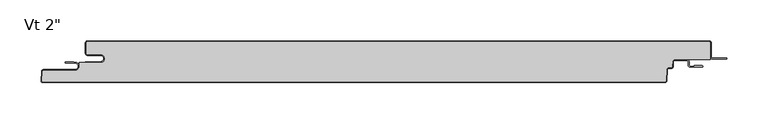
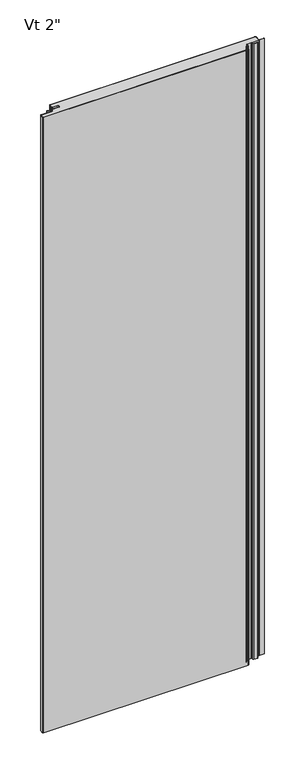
"""IFC4 building model written with IfcOpenShell, lengths in millimetres: plate geometry."""

import ifcopenshell
import ifcopenshell.guid

model = None  # the IFC model being written
_history = None  # IfcOwnerHistory: only IFC2X3 demands one
_inside = {}  # id of a spatial element -> (the spatial element, [elements in it])
_under = {}  # id of a project, library or spatial element -> (it, [spatial elements below it])
_declared = {}  # id of a project -> (the project, [libraries it declares])
_typed = {}  # id of a type object -> (the type object, [elements of that type])
_made_of = {}  # id of a material, layer set ... -> (it, [elements and type objects made of it])


def new_model(schema):
    """Start an empty IFC model of exactly this schema.

    Asked for "IFC4X3", IfcOpenShell would pick the latest addendum, in which some entities
    have other attributes; the version numbers below select the first issue.
    IFC2X3 requires an IfcOwnerHistory on every rooted entity: one is made here for all.
    """
    global model, _history
    if schema == "IFC4X3":
        model = ifcopenshell.file(schema_version=(4, 3, 0, 0))
    else:
        model = ifcopenshell.file(schema=schema)
    _inside.clear()
    _under.clear()
    _declared.clear()
    _typed.clear()
    _made_of.clear()
    _history = None
    if model.schema == "IFC2X3":
        org = make("IfcOrganization", Name="unknown")
        user = make(
            "IfcPersonAndOrganization",
            ThePerson=make("IfcPerson", FamilyName="unknown"),
            TheOrganization=org,
        )
        app = make(
            "IfcApplication",
            ApplicationDeveloper=org,
            Version="unknown",
            ApplicationFullName="unknown",
            ApplicationIdentifier="unknown",
        )
        _history = make(
            "IfcOwnerHistory",
            OwningUser=user,
            OwningApplication=app,
            ChangeAction="ADDED",
            CreationDate=0,
        )
    return model


def make(cls, **values):
    """One entity of the class cls with the attributes given. An attribute that is None is left unset."""
    return model.create_entity(
        cls, **{name: value for name, value in values.items() if value is not None}
    )


def rooted(cls, **values):
    """An entity with a GlobalId (a new one), such as an element, a storey or a relation."""
    return make(cls, GlobalId=ifcopenshell.guid.new(), OwnerHistory=_history, **values)


def si_unit(unit_type, name, prefix=None):
    """IfcSIUnit, for example si_unit("LENGTHUNIT", "METRE", prefix="MILLI")."""
    return make("IfcSIUnit", UnitType=unit_type, Prefix=prefix, Name=name)


def assignment(units):
    """IfcUnitAssignment: the units of a project."""
    return None if units is None else make("IfcUnitAssignment", Units=units)


def point(xyz):
    """IfcCartesianPoint."""
    return None if xyz is None else make("IfcCartesianPoint", Coordinates=xyz)


def direction(xyz):
    """IfcDirection."""
    return None if xyz is None else make("IfcDirection", DirectionRatios=xyz)


def frame(location, z_axis=None, x_axis=None):
    """IfcAxis2Placement3D, a coordinate frame: its origin and axes. An axis left out is left unset."""
    return make(
        "IfcAxis2Placement3D",
        Location=point(location),
        Axis=direction(z_axis),
        RefDirection=direction(x_axis),
    )


def frame_2d(location, x_axis=None):
    """IfcAxis2Placement2D, a coordinate frame in the plane: its origin and x axis."""
    return make(
        "IfcAxis2Placement2D", Location=point(location), RefDirection=direction(x_axis)
    )


def origin():
    """The frame at (0, 0, 0) with its axes left unset."""
    return frame((0.0, 0.0, 0.0))


def origin_with_axes():
    """The frame at (0, 0, 0) with the z axis (0, 0, 1) and the x axis (1, 0, 0) written out."""
    return frame((0.0, 0.0, 0.0), z_axis=(0.0, 0.0, 1.0), x_axis=(1.0, 0.0, 0.0))


def place(relative_to, where):
    """IfcLocalPlacement: puts the frame where relative to a parent placement (None: the world)."""
    return make(
        "IfcLocalPlacement", PlacementRelTo=relative_to, RelativePlacement=where
    )


def context(
    kind, dimensions, precision=None, world=None, true_north=None, identifier=None
):
    """IfcGeometricRepresentationContext, for example the 3D "Model" context."""
    return make(
        "IfcGeometricRepresentationContext",
        ContextIdentifier=identifier,
        ContextType=kind,
        CoordinateSpaceDimension=dimensions,
        Precision=precision,
        WorldCoordinateSystem=world,
        TrueNorth=true_north,
    )


def project(units=None, contexts=None):
    """IfcProject with its units and contexts."""
    return rooted(
        "IfcProject",
        Name="project",
        RepresentationContexts=contexts,
        UnitsInContext=assignment(units),
    )


def spatial(cls, under=None, at=None, **own):
    """A site, building, storey or space (cls), placed at a placement, below another one or the project."""
    s = rooted(cls, ObjectPlacement=at, **own)
    if under is not None:
        _under.setdefault(under.id(), (under, []))[1].append(s)
    return s


def polyline(points):
    """IfcPolyline through the points."""
    return make("IfcPolyline", Points=[point(p) for p in points])


def circle_curve(where, radius):
    """IfcCircle in the frame where."""
    return make("IfcCircle", Position=where, Radius=radius)


def ellipse_curve(where, semi_axis1, semi_axis2):
    """IfcEllipse in the frame where."""
    return make(
        "IfcEllipse", Position=where, SemiAxis1=semi_axis1, SemiAxis2=semi_axis2
    )


def trimmed(basis, trim1, trim2, sense, master):
    """IfcTrimmedCurve: the piece of a basis curve between two trims."""
    return make(
        "IfcTrimmedCurve",
        BasisCurve=basis,
        Trim1=trim1,
        Trim2=trim2,
        SenseAgreement=sense,
        MasterRepresentation=master,
    )


def segment(curve, same_sense, transition):
    """IfcCompositeCurveSegment."""
    return make(
        "IfcCompositeCurveSegment",
        Transition=transition,
        SameSense=same_sense,
        ParentCurve=curve,
    )


def composite_curve(segments, self_intersect=None):
    """IfcCompositeCurve: segments joined end to end."""
    return make("IfcCompositeCurve", Segments=segments, SelfIntersect=self_intersect)


def outline(outer, holes=None, kind="AREA"):
    """IfcArbitraryClosedProfileDef: a profile drawn as a closed curve; with holes, ...WithVoids."""
    if holes is None:
        return make("IfcArbitraryClosedProfileDef", ProfileType=kind, OuterCurve=outer)
    return make(
        "IfcArbitraryProfileDefWithVoids",
        ProfileType=kind,
        OuterCurve=outer,
        InnerCurves=holes,
    )


def extrude(swept, where, along, depth):
    """IfcExtrudedAreaSolid: the profile swept, set in the frame where, extruded along a direction by depth."""
    return make(
        "IfcExtrudedAreaSolid",
        SweptArea=swept,
        Position=where,
        ExtrudedDirection=direction(along),
        Depth=depth,
    )


def shape(context_of_items, identifier, shape_type, items):
    """IfcShapeRepresentation: the items that make up one representation, for example the "Body"."""
    return make(
        "IfcShapeRepresentation",
        ContextOfItems=context_of_items,
        RepresentationIdentifier=identifier,
        RepresentationType=shape_type,
        Items=items,
    )


def source(mapping_origin, context_of_items, identifier, shape_type, items):
    """IfcRepresentationMap: a shape defined once, which mapped items show again and again."""
    return make(
        "IfcRepresentationMap",
        MappingOrigin=mapping_origin,
        MappedRepresentation=shape(context_of_items, identifier, shape_type, items),
    )


def transform(
    local_origin,
    x_axis=None,
    y_axis=None,
    z_axis=None,
    scale=None,
    scale2=None,
    scale3=None,
    uniform=True,
):
    """IfcCartesianTransformationOperator3D, or its non-uniform kind. x_axis, y_axis, z_axis: its Axis1, 2, 3."""
    if uniform:
        return make(
            "IfcCartesianTransformationOperator3D",
            Axis1=direction(x_axis),
            Axis2=direction(y_axis),
            LocalOrigin=point(local_origin),
            Scale=scale,
            Axis3=direction(z_axis),
        )
    return make(
        "IfcCartesianTransformationOperator3DnonUniform",
        Axis1=direction(x_axis),
        Axis2=direction(y_axis),
        LocalOrigin=point(local_origin),
        Scale=scale,
        Axis3=direction(z_axis),
        Scale2=scale2,
        Scale3=scale3,
    )


def mapped(mapping_source, mapping_target):
    """IfcMappedItem: shows the shape of a source again, moved by a transform."""
    return make(
        "IfcMappedItem", MappingSource=mapping_source, MappingTarget=mapping_target
    )


def made_of(thing, what):
    """Note that an element or type object is made of a material, layer set ...; save() writes the relation."""
    if what is not None:
        _made_of.setdefault(what.id(), (what, []))[1].append(thing)
    return thing


def element(
    cls,
    number,
    at=None,
    inside=None,
    cuts=None,
    type_object=None,
    material=None,
    context=None,
    identifier="Body",
    shape_type=None,
    held_by="IfcProductDefinitionShape",
    body=None,
    shapes=None,
    **own,
):
    """One element of the class cls, such as IfcWall. Its Tag is "e" and its number.

    at: its placement. inside: the storey or other place that contains it. cuts: it is an
    opening in that element (IfcRelVoidsElement). A single representation is given by context,
    identifier, shape_type and body (its items); several are given by shapes. held_by: the class
    of the entity that holds the representations. save() writes the other relations.
    """
    e = rooted(cls, Tag="e%d" % number, ObjectPlacement=at, **own)
    if body is not None:
        shapes = [shape(context, identifier, shape_type, body)]
    if shapes is not None:
        e.Representation = make(held_by, Representations=shapes)
    if inside is not None:
        _inside.setdefault(inside.id(), (inside, []))[1].append(e)
    if cuts is not None:
        rooted(
            "IfcRelVoidsElement", RelatingBuildingElement=cuts, RelatedOpeningElement=e
        )
    if type_object is not None:
        _typed.setdefault(type_object.id(), (type_object, []))[1].append(e)
    return made_of(e, material)


def aggregate(whole, parts):
    """IfcRelAggregates: a whole, such as a stair, and the parts it consists of."""
    return rooted("IfcRelAggregates", RelatingObject=whole, RelatedObjects=parts)


def save(model, path):
    """Write the relations noted so far, then the file.

    IfcRelAggregates (storeys below a building ...), IfcRelContainedInSpatialStructure (elements
    in a storey), IfcRelDefinesByType, IfcRelAssociatesMaterial and IfcRelDeclares: one each for
    every whole, place, type object, material and project.
    """
    for whole, parts in _under.values():
        aggregate(whole, parts)
    for where, things in _inside.values():
        rooted(
            "IfcRelContainedInSpatialStructure",
            RelatedElements=things,
            RelatingStructure=where,
        )
    for kind, things in _typed.values():
        rooted("IfcRelDefinesByType", RelatedObjects=things, RelatingType=kind)
    for what, things in _made_of.values():
        rooted("IfcRelAssociatesMaterial", RelatedObjects=things, RelatingMaterial=what)
    for by, libraries in _declared.values():
        rooted("IfcRelDeclares", RelatingContext=by, RelatedDefinitions=libraries)
    model.write(path)


def plane_surface(at):
    """IfcPlane: the flat surface through the origin of the frame at, square to its z axis."""
    return make("IfcPlane", Position=at)


def cylinder_surface(at, radius):
    """IfcCylindricalSurface: all points at the distance radius from the z axis of the frame at."""
    return make("IfcCylindricalSurface", Position=at, Radius=radius)


def revolved_surface(curve, axis_point, axis_direction):
    """IfcSurfaceOfRevolution: the curve turned about the line through axis_point along axis_direction."""
    return make(
        "IfcSurfaceOfRevolution",
        SweptCurve=make("IfcArbitraryOpenProfileDef", ProfileType="CURVE", Curve=curve),
        AxisPosition=make("IfcAxis1Placement", Location=point(axis_point), Axis=direction(axis_direction)),
    )


def extruded_surface(curve, direction_of_extrusion, depth):
    """IfcSurfaceOfLinearExtrusion: the curve pushed along a direction by depth."""
    return make(
        "IfcSurfaceOfLinearExtrusion",
        SweptCurve=make("IfcArbitraryOpenProfileDef", ProfileType="CURVE", Curve=curve),
        ExtrudedDirection=direction(direction_of_extrusion),
        Depth=depth,
    )


def advanced_brep(points, edges, surfaces, faces):
    """IfcAdvancedBrep: a solid bounded by faces that lie on surfaces and meet in shared edges.

    An edge is (start, end): straight between two places in points (the first is 0);
    or (start, end, curve); or (start, end, curve, False) where it runs against its curve.
    A face is (place in surfaces, loops), or (place, loops, False) where it looks against
    its surface's normal. A loop lists edges by number (the first is 1), with a minus sign
    where the edge is run from its end to its start. The first loop is the outer one.
    """
    corners = [point(p) for p in points]
    vertices = [make("IfcVertexPoint", VertexGeometry=c) for c in corners]
    made = []
    for start, end, *more in edges:
        made.append(
            make(
                "IfcEdgeCurve",
                EdgeStart=vertices[start],
                EdgeEnd=vertices[end],
                EdgeGeometry=more[0] if more else make("IfcPolyline", Points=[corners[start], corners[end]]),
                SameSense=more[1] if len(more) > 1 else True,
            )
        )
    hull = []
    for where, loops, *sense in faces:
        bounds = []
        for j, loop in enumerate(loops):
            ring = [make("IfcOrientedEdge", EdgeElement=made[abs(k) - 1], Orientation=k > 0) for k in loop]
            bounds.append(
                make(
                    "IfcFaceOuterBound" if j == 0 else "IfcFaceBound",
                    Bound=make("IfcEdgeLoop", EdgeList=ring),
                    Orientation=True,
                )
            )
        hull.append(make("IfcAdvancedFace", Bounds=bounds, FaceSurface=surfaces[where], SameSense=sense[0] if sense else True))
    return make("IfcAdvancedBrep", Outer=make("IfcClosedShell", CfsFaces=hull))


def plate_13ea33e8(model_context):
    return source(origin(), model_context, "Body", "SolidModel", [
        extrude(outline(composite_curve([segment(trimmed(circle_curve(frame_2d((335.8683456, -25.4)), 2.5875), [point((335.8683456, -22.8125))], [point((333.2843916, -25.2645807))], True, "CARTESIAN"), True, "CONTINUOUS"), segment(polyline([(333.2843916, -25.2645807), (332.9823154, -31.028539)]), True, "CONTINUOUS"), segment(trimmed(circle_curve(frame_2d((331.6029583, -30.95625)), 1.38125), [point((332.9823154, -31.028539))], [point((331.6029583, -32.3375))], False, "CARTESIAN"), True, "CONTINUOUS"), segment(polyline([(331.6029583, -32.3375), (328.5591519, -32.3375)]), True, "CONTINUOUS"), segment(trimmed(circle_curve(frame_2d((328.5591519, -34.925)), 2.5875), [point((328.5591519, -32.3375))], [point((325.975198, -34.7895807))], True, "CARTESIAN"), True, "CONTINUOUS"), segment(polyline([(325.975198, -34.7895807), (325.257135, -48.491039)]), True, "CONTINUOUS"), segment(trimmed(circle_curve(frame_2d((323.877778, -48.41875)), 1.38125), [point((325.257135, -48.491039))], [point((323.877778, -49.8))], False, "CARTESIAN"), True, "CONTINUOUS"), segment(polyline([(323.877778, -49.8), (-431.7656862, -49.8)]), True, "CONTINUOUS"), segment(trimmed(circle_curve(frame_2d((-431.7656862, -48.41875)), 1.38125), [point((-431.7656862, -49.8))], [point((-433.1450433, -48.346461))], False, "CARTESIAN"), True, "CONTINUOUS"), segment(polyline([(-433.1450433, -48.346461), (-432.5626618, -37.233961)]), True, "CONTINUOUS"), segment(trimmed(circle_curve(frame_2d((-431.1833048, -37.30625)), 1.38125), [point((-432.5626618, -37.233961))], [point((-431.1833048, -35.925))], False, "CARTESIAN"), True, "CONTINUOUS"), segment(polyline([(-431.1833048, -35.925), (-393.0000002, -35.925)]), True, "CONTINUOUS"), segment(trimmed(circle_curve(frame_2d((-393.0000002, -30.95625)), 4.96875), [point((-393.0000002, -35.925))], [point((-388.0312502, -30.95625))], True, "CARTESIAN"), True, "CONTINUOUS"), segment(polyline([(-388.0312502, -30.95625), (-388.0312502, -26.4), (-362.0437502, -26.4)]), True, "CONTINUOUS"), segment(trimmed(circle_curve(frame_2d((-362.0437502, -21.43125)), 4.96875), [point((-362.0437502, -26.4))], [point((-362.0437502, -16.4625))], True, "CARTESIAN"), True, "CONTINUOUS"), segment(polyline([(-362.0437502, -16.4625), (-377.9187502, -16.4625)]), True, "CONTINUOUS"), segment(trimmed(circle_curve(frame_2d((-377.9187502, -15.08125)), 1.38125), [point((-377.9187502, -16.4625))], [point((-379.3000002, -15.08125))], False, "CARTESIAN"), True, "CONTINUOUS"), segment(polyline([(-379.3000002, -15.08125), (-379.3000002, -2.38125)]), True, "CONTINUOUS"), segment(trimmed(circle_curve(frame_2d((-377.9187502, -2.38125)), 1.38125), [point((-379.3000002, -2.38125))], [point((-377.9187502, -1.0))], False, "CARTESIAN"), True, "CONTINUOUS"), segment(polyline([(-377.9187502, -1.0), (377.7312498, -1.0)]), True, "CONTINUOUS"), segment(trimmed(circle_curve(frame_2d((377.7312498, -2.38125)), 1.38125), [point((377.7312498, -1.0))], [point((379.1124998, -2.38125))], False, "CARTESIAN"), True, "CONTINUOUS"), segment(polyline([(379.1124998, -2.38125), (379.1124998, -22.8125), (335.8683456, -22.8125)]), True, "CONTINUOUS")], self_intersect=False)), origin_with_axes(), (0.0, 0.0, 1.0), 2400.0),
        extrude(outline(composite_curve([segment(polyline([(-380.3000002, -25.4), (-362.0437502, -25.4)]), True, "CONTINUOUS"), segment(trimmed(circle_curve(frame_2d((-362.0437502, -21.43125)), 3.96875), [point((-362.0437502, -25.4))], [point((-362.0437502, -17.4625))], True, "CARTESIAN"), True, "CONTINUOUS"), segment(polyline([(-362.0437502, -17.4625), (-377.9187502, -17.4625)]), True, "CONTINUOUS"), segment(trimmed(circle_curve(frame_2d((-377.9187502, -15.08125)), 2.38125), [point((-377.9187502, -17.4625))], [point((-380.3000002, -15.08125))], False, "CARTESIAN"), True, "CONTINUOUS"), segment(polyline([(-380.3000002, -15.08125), (-380.3000002, -2.38125)]), True, "CONTINUOUS"), segment(trimmed(circle_curve(frame_2d((-377.9187502, -2.38125)), 2.38125), [point((-380.3000002, -2.38125))], [point((-377.9187502, 0.0))], False, "CARTESIAN"), True, "CONTINUOUS"), segment(polyline([(-377.9187502, 0.0), (377.7312498, 0.0)]), True, "CONTINUOUS"), segment(trimmed(circle_curve(frame_2d((377.7312498, -2.38125)), 2.38125), [point((377.7312498, 0.0))], [point((380.1124998, -2.38125))], False, "CARTESIAN"), True, "CONTINUOUS"), segment(polyline([(380.1124998, -2.38125), (380.1124998, -19.446875)]), True, "CONTINUOUS"), segment(trimmed(circle_curve(frame_2d((381.6999998, -19.446875)), 1.5875), [point((380.1124998, -19.446875))], [point((381.6999998, -21.034375))], True, "CARTESIAN"), True, "CONTINUOUS"), segment(polyline([(381.6999998, -21.034375), (399.1624998, -21.034375), (399.1624998, -22.034375), (381.6999998, -22.034375)]), True, "CONTINUOUS"), segment(trimmed(circle_curve(frame_2d((381.6999998, -19.446875)), 2.5875), [point((381.6999998, -22.034375))], [point((379.1124998, -19.446875))], False, "CARTESIAN"), True, "CONTINUOUS"), segment(polyline([(379.1124998, -19.446875), (379.1124998, -2.38125)]), True, "CONTINUOUS"), segment(trimmed(circle_curve(frame_2d((377.7312498, -2.38125)), 1.38125), [point((379.1124998, -2.38125))], [point((377.7312498, -1.0))], True, "CARTESIAN"), True, "CONTINUOUS"), segment(polyline([(377.7312498, -1.0), (-377.9187502, -1.0)]), True, "CONTINUOUS"), segment(trimmed(circle_curve(frame_2d((-377.9187502, -2.38125)), 1.38125), [point((-377.9187502, -1.0))], [point((-379.3000002, -2.38125))], True, "CARTESIAN"), True, "CONTINUOUS"), segment(polyline([(-379.3000002, -2.38125), (-379.3000002, -15.08125)]), True, "CONTINUOUS"), segment(trimmed(circle_curve(frame_2d((-377.9187502, -15.08125)), 1.38125), [point((-379.3000002, -15.08125))], [point((-377.9187502, -16.4625))], True, "CARTESIAN"), True, "CONTINUOUS"), segment(polyline([(-377.9187502, -16.4625), (-362.0437502, -16.4625)]), True, "CONTINUOUS"), segment(trimmed(circle_curve(frame_2d((-362.0437502, -21.43125)), 4.96875), [point((-362.0437502, -16.4625))], [point((-362.0437502, -26.4))], False, "CARTESIAN"), True, "CONTINUOUS"), segment(polyline([(-362.0437502, -26.4), (-380.3000002, -26.4), (-380.3000002, -25.4)]), True, "CONTINUOUS")], self_intersect=False)), origin_with_axes(), (0.0, 0.0, 1.0), 2400.0),
        advanced_brep(
        [(-404.3252051, -25.4, 2400.0), (-404.3252051, -26.9875, 2400.0), (-393.0142676, -26.9875, 2400.0), (-393.0142676, -34.925, 2400.0), (-431.1975722, -34.925, 2400.0), (-433.5755588, -37.181625, 2400.0), (-434.1579402, -48.294125, 2400.0), (-431.7799537, -50.8, 2400.0), (323.8635105, -50.8, 2400.0), (326.2414971, -48.543375, 2400.0), (326.9595601, -34.8419167, 2400.0), (328.5448845, -33.3375, 2400.0), (331.5886909, -33.3375, 2400.0), (333.9666775, -31.080875, 2400.0), (334.2687537, -25.3169167, 2400.0), (335.8540781, -23.8125, 2400.0), (350.7294824, -23.8125, 2400.0), (352.3169824, -25.4, 2400.0), (352.3169824, -29.5671875, 2400.0), (354.6982324, -31.9484375, 2400.0), (369.189853, -31.9484375, 2400.0), (369.189853, -30.1546875, 2400.0), (359.4607324, -30.1546875, 2400.0), (359.4607324, -30.9484375, 2400.0), (354.6982324, -30.9484375, 2400.0), (353.3169824, -29.5671875, 2400.0), (353.3169824, -25.4, 2400.0), (350.7294824, -22.8125, 2400.0), (335.8540781, -22.8125, 2400.0), (333.2701242, -25.2645807, 2400.0), (332.9680479, -31.028539, 2400.0), (331.5886909, -32.3375, 2400.0), (328.5448845, -32.3375, 2400.0), (325.9609306, -34.7895807, 2400.0), (325.2428676, -48.491039, 2400.0), (323.8635105, -49.8, 2400.0), (-431.7799537, -49.8, 2400.0), (-433.1593107, -48.346461, 2400.0), (-432.5769293, -37.233961, 2400.0), (-431.1975722, -35.925, 2400.0), (-393.0142676, -35.925, 2400.0), (-393.0142676, -25.9875, 2400.0), (-394.6017676, -26.19375, 2400.0), (-394.6017676, -25.4, 2400.0), (-404.3252051, -25.4, 0.0), (-394.6017676, -25.4, 0.0), (-394.6017676, -26.19375, 0.0), (-393.0142676, -25.9875, 0.0), (-393.0142676, -35.925, 0.0), (-431.1975722, -35.925, 0.0), (-432.5769293, -37.233961, 0.0), (-433.1593107, -48.346461, 0.0), (-431.7799537, -49.8, 0.0), (323.8635105, -49.8, 0.0), (325.2428676, -48.491039, 0.0), (325.9609306, -34.7895807, 0.0), (328.5448845, -32.3375, 0.0), (331.5886909, -32.3375, 0.0), (332.9680479, -31.028539, 0.0), (333.2701242, -25.2645807, 0.0), (335.8540781, -22.8125, 0.0), (350.7294824, -22.8125, 0.0), (353.3169824, -25.4, 0.0), (353.3169824, -29.5671875, 0.0), (354.6982324, -30.9484375, 0.0), (359.4607324, -30.9484375, 0.0), (359.4607324, -30.1546875, 0.0), (369.189853, -30.1546875, 0.0), (369.189853, -31.9484375, 0.0), (354.6982324, -31.9484375, 0.0), (352.3169824, -29.5671875, 0.0), (352.3169824, -25.4, 0.0), (350.7294824, -23.8125, 0.0), (335.8540781, -23.8125, 0.0), (334.2687537, -25.3169167, 0.0), (333.9666775, -31.080875, 0.0), (331.5886909, -33.3375, 0.0), (328.5448845, -33.3375, 0.0), (326.9595601, -34.8419167, 0.0), (326.2414971, -48.543375, 0.0), (323.8635105, -50.8, 0.0), (-431.7799537, -50.8, 0.0), (-434.1579402, -48.294125, 0.0), (-433.5755588, -37.181625, 0.0), (-431.1975722, -34.925, 0.0), (-393.0142676, -34.925, 0.0), (-393.0142676, -26.9875, 0.0), (-404.3252051, -26.9875, 0.0)],
        [
            (0, 1, circle_curve(frame((-404.3252051, -26.19375, 2400.0), z_axis=(0.0, 0.0, 1.0), x_axis=(1.0, 0.0, 0.0)), 0.79375)),
            (1, 2),
            (2, 3, circle_curve(frame((-393.0142676, -30.95625, 2400.0), z_axis=(0.0, 0.0, -1.0), x_axis=(1.0, 0.0, 0.0)), 3.96875)),
            (3, 4),
            (4, 5, circle_curve(frame((-431.1975722, -37.30625, 2400.0), z_axis=(0.0, 0.0, 1.0), x_axis=(1.0, 0.0, 0.0)), 2.38125)),
            (5, 6),
            (6, 7, circle_curve(frame((-431.7799537, -48.41875, 2400.0), z_axis=(0.0, 0.0, 1.0), x_axis=(1.0, 0.0, 0.0)), 2.38125)),
            (7, 8),
            (8, 9, circle_curve(frame((323.8635105, -48.41875, 2400.0), z_axis=(0.0, 0.0, 1.0), x_axis=(1.0, 0.0, 0.0)), 2.38125)),
            (9, 10),
            (10, 11, circle_curve(frame((328.5448845, -34.925, 2400.0), z_axis=(0.0, 0.0, -1.0), x_axis=(1.0, 0.0, 0.0)), 1.5875)),
            (11, 12),
            (12, 13, circle_curve(frame((331.5886909, -30.95625, 2400.0), z_axis=(0.0, 0.0, 1.0), x_axis=(1.0, 0.0, 0.0)), 2.38125)),
            (13, 14),
            (14, 15, circle_curve(frame((335.8540781, -25.4, 2400.0), z_axis=(0.0, 0.0, -1.0), x_axis=(1.0, 0.0, 0.0)), 1.5875)),
            (15, 16),
            (16, 17, circle_curve(frame((350.7294824, -25.4, 2400.0), z_axis=(0.0, 0.0, -1.0), x_axis=(1.0, 0.0, 0.0)), 1.5875)),
            (17, 18),
            (18, 19, circle_curve(frame((354.6982324, -29.5671875, 2400.0), z_axis=(0.0, 0.0, 1.0), x_axis=(1.0, 0.0, 0.0)), 2.38125)),
            (19, 20),
            (20, 21, ellipse_curve(frame((369.189853, -31.0515625, 2400.0), z_axis=(0.0, 0.0, 1.0), x_axis=(0.0, 1.0, 0.0)), 0.896875, 0.7852275)),
            (21, 22),
            (22, 23),
            (23, 24),
            (24, 25, circle_curve(frame((354.6982324, -29.5671875, 2400.0), z_axis=(0.0, 0.0, -1.0), x_axis=(1.0, 0.0, 0.0)), 1.38125)),
            (25, 26),
            (26, 27, circle_curve(frame((350.7294824, -25.4, 2400.0), z_axis=(0.0, 0.0, 1.0), x_axis=(1.0, 0.0, 0.0)), 2.5875)),
            (27, 28),
            (28, 29, circle_curve(frame((335.8540781, -25.4, 2400.0), z_axis=(0.0, 0.0, 1.0), x_axis=(1.0, 0.0, 0.0)), 2.5875)),
            (29, 30),
            (30, 31, circle_curve(frame((331.5886909, -30.95625, 2400.0), z_axis=(0.0, 0.0, -1.0), x_axis=(1.0, 0.0, 0.0)), 1.38125)),
            (31, 32),
            (32, 33, circle_curve(frame((328.5448845, -34.925, 2400.0), z_axis=(0.0, 0.0, 1.0), x_axis=(1.0, 0.0, 0.0)), 2.5875)),
            (33, 34),
            (34, 35, circle_curve(frame((323.8635105, -48.41875, 2400.0), z_axis=(0.0, 0.0, -1.0), x_axis=(1.0, 0.0, 0.0)), 1.38125)),
            (35, 36),
            (36, 37, circle_curve(frame((-431.7799537, -48.41875, 2400.0), z_axis=(0.0, 0.0, -1.0), x_axis=(1.0, 0.0, 0.0)), 1.38125)),
            (37, 38),
            (38, 39, circle_curve(frame((-431.1975722, -37.30625, 2400.0), z_axis=(0.0, 0.0, -1.0), x_axis=(1.0, 0.0, 0.0)), 1.38125)),
            (39, 40),
            (40, 41, circle_curve(frame((-393.0142676, -30.95625, 2400.0), z_axis=(0.0, 0.0, 1.0), x_axis=(1.0, 0.0, 0.0)), 4.96875)),
            (41, 42),
            (42, 43),
            (43, 0),
            (44, 45),
            (45, 46),
            (46, 47),
            (47, 48, circle_curve(frame((-393.0142676, -30.95625, 0.0), z_axis=(0.0, 0.0, -1.0), x_axis=(1.0, 0.0, 0.0)), 4.96875)),
            (48, 49),
            (49, 50, circle_curve(frame((-431.1975722, -37.30625, 0.0), z_axis=(0.0, 0.0, 1.0), x_axis=(1.0, 0.0, 0.0)), 1.38125)),
            (50, 51),
            (51, 52, circle_curve(frame((-431.7799537, -48.41875, 0.0), z_axis=(0.0, 0.0, 1.0), x_axis=(1.0, 0.0, 0.0)), 1.38125)),
            (52, 53),
            (53, 54, circle_curve(frame((323.8635105, -48.41875, 0.0), z_axis=(0.0, 0.0, 1.0), x_axis=(1.0, 0.0, 0.0)), 1.38125)),
            (54, 55),
            (55, 56, circle_curve(frame((328.5448845, -34.925, 0.0), z_axis=(0.0, 0.0, -1.0), x_axis=(1.0, 0.0, 0.0)), 2.5875)),
            (56, 57),
            (57, 58, circle_curve(frame((331.5886909, -30.95625, 0.0), z_axis=(0.0, 0.0, 1.0), x_axis=(1.0, 0.0, 0.0)), 1.38125)),
            (58, 59),
            (59, 60, circle_curve(frame((335.8540781, -25.4, 0.0), z_axis=(0.0, 0.0, -1.0), x_axis=(1.0, 0.0, 0.0)), 2.5875)),
            (60, 61),
            (61, 62, circle_curve(frame((350.7294824, -25.4, 0.0), z_axis=(0.0, 0.0, -1.0), x_axis=(1.0, 0.0, 0.0)), 2.5875)),
            (62, 63),
            (63, 64, circle_curve(frame((354.6982324, -29.5671875, 0.0), z_axis=(0.0, 0.0, 1.0), x_axis=(1.0, 0.0, 0.0)), 1.38125)),
            (64, 65),
            (65, 66),
            (66, 67),
            (67, 68, ellipse_curve(frame((369.189853, -31.0515625, 0.0), z_axis=(0.0, 0.0, -1.0), x_axis=(0.0, 1.0, 0.0)), 0.896875, 0.7852275)),
            (68, 69),
            (69, 70, circle_curve(frame((354.6982324, -29.5671875, 0.0), z_axis=(0.0, 0.0, -1.0), x_axis=(1.0, 0.0, 0.0)), 2.38125)),
            (70, 71),
            (71, 72, circle_curve(frame((350.7294824, -25.4, 0.0), z_axis=(0.0, 0.0, 1.0), x_axis=(1.0, 0.0, 0.0)), 1.5875)),
            (72, 73),
            (73, 74, circle_curve(frame((335.8540781, -25.4, 0.0), z_axis=(0.0, 0.0, 1.0), x_axis=(1.0, 0.0, 0.0)), 1.5875)),
            (74, 75),
            (75, 76, circle_curve(frame((331.5886909, -30.95625, 0.0), z_axis=(0.0, 0.0, -1.0), x_axis=(1.0, 0.0, 0.0)), 2.38125)),
            (76, 77),
            (77, 78, circle_curve(frame((328.5448845, -34.925, 0.0), z_axis=(0.0, 0.0, 1.0), x_axis=(1.0, 0.0, 0.0)), 1.5875)),
            (78, 79),
            (79, 80, circle_curve(frame((323.8635105, -48.41875, 0.0), z_axis=(0.0, 0.0, -1.0), x_axis=(1.0, 0.0, 0.0)), 2.38125)),
            (80, 81),
            (81, 82, circle_curve(frame((-431.7799537, -48.41875, 0.0), z_axis=(0.0, 0.0, -1.0), x_axis=(1.0, 0.0, 0.0)), 2.38125)),
            (82, 83),
            (83, 84, circle_curve(frame((-431.1975722, -37.30625, 0.0), z_axis=(0.0, 0.0, -1.0), x_axis=(1.0, 0.0, 0.0)), 2.38125)),
            (84, 85),
            (85, 86, circle_curve(frame((-393.0142676, -30.95625, 0.0), z_axis=(0.0, 0.0, 1.0), x_axis=(1.0, 0.0, 0.0)), 3.96875)),
            (86, 87),
            (87, 44, circle_curve(frame((-404.3252051, -26.19375, 0.0), z_axis=(0.0, 0.0, -1.0), x_axis=(1.0, 0.0, 0.0)), 0.79375)),
            (20, 68),
            (67, 21),
            (66, 22),
            (65, 23),
            (41, 47),
            (46, 42),
            (45, 43),
            (40, 48),
            (39, 49),
            (38, 50),
            (37, 51),
            (33, 55),
            (54, 34),
            (32, 56),
            (31, 57),
            (30, 58),
            (29, 59),
            (28, 60),
            (64, 24),
            (63, 25),
            (62, 26),
            (61, 27),
            (18, 70),
            (69, 19),
            (17, 71),
            (16, 72),
            (15, 73),
            (14, 74),
            (13, 75),
            (12, 76),
            (11, 77),
            (10, 78),
            (9, 79),
            (5, 83),
            (82, 6),
            (4, 84),
            (3, 85),
            (2, 86),
            (1, 87),
            (0, 44),
            (36, 52),
            (35, 53),
            (8, 80),
            (7, 81),
        ],
        [
            plane_surface(frame((-0.0937502, -50.8, 2400.0), z_axis=(0.0, 0.0, 1.0), x_axis=(0.0, -1.0, 0.0))),
            plane_surface(frame((-0.0937502, -50.8, 0.0), z_axis=(0.0, 0.0, -1.0), x_axis=(0.0, -1.0, 0.0))),
            extruded_surface(trimmed(ellipse_curve(frame((369.189853, -31.0515625, 2400.0), z_axis=(0.0, 0.0, -1.0), x_axis=(0.0, 1.0, 0.0)), 0.896875, 0.7852275), [point((369.189853, -30.1546875, 2400.0))], [point((369.189853, -31.9484375, 2400.0))], True, "CARTESIAN"), (0.0, 0.0, -2400.0), 2400.0),
            plane_surface(frame((359.4607324, -30.1546875, 2400.0), z_axis=(0.0, 1.0, 0.0), x_axis=(0.0, 0.0, -1.0))),
            plane_surface(frame((359.4607324, -30.9484375, 2400.0), z_axis=(-1.0, 0.0, 0.0), x_axis=(0.0, 0.0, -1.0))),
            plane_surface(frame((-394.6017676, -26.19375, 2400.0), z_axis=(-0.12883844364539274, 0.9916655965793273, 0.0), x_axis=(0.0, 0.0, -1.0))),
            plane_surface(frame((-394.6017676, -25.4, 2400.0), z_axis=(1.0, 0.0, 0.0), x_axis=(0.0, 0.0, -1.0))),
            cylinder_surface(frame((-393.0142676, -30.95625, 2400.0), z_axis=(0.0, 0.0, 1.0), x_axis=(1.0, 0.0, 0.0)), 4.96875),
            plane_surface(frame((-393.0142676, -35.925, 2400.0), z_axis=(0.0, -1.0, 0.0), x_axis=(0.0, 0.0, -1.0))),
            revolved_surface(polyline([(-429.8163222, -37.30625, 0.0), (-429.8163222, -37.30625, 2400.0)]), (-431.1975722, -37.30625, 2400.0), (0.0, 0.0, -1.0)),
            plane_surface(frame((-432.5769293, -37.233961, 2400.0), z_axis=(0.9986295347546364, -0.05233595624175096, 0.0), x_axis=(0.0, 0.0, -1.0))),
            plane_surface(frame((325.2428676, -48.491039, 2400.0), z_axis=(-0.9986295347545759, 0.05233595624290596, 0.0), x_axis=(0.0, 0.0, -1.0))),
            cylinder_surface(frame((328.5448845, -34.925, 2400.0), z_axis=(0.0, 0.0, 1.0), x_axis=(1.0, 0.0, 0.0)), 2.5875),
            plane_surface(frame((328.5448845, -32.3375, 2400.0), z_axis=(0.0, 1.0, 0.0), x_axis=(0.0, 0.0, -1.0))),
            revolved_surface(polyline([(332.96994090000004, -30.95625, 0.0), (332.96994090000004, -30.95625, 2400.0)]), (331.5886909, -30.95625, 2400.0), (0.0, 0.0, -1.0)),
            plane_surface(frame((332.9680479, -31.028539, 2400.0), z_axis=(-0.998629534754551, 0.05233595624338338, 0.0), x_axis=(0.0, 0.0, -1.0))),
            cylinder_surface(frame((335.8540781, -25.4, 2400.0), z_axis=(0.0, 0.0, 1.0), x_axis=(1.0, 0.0, 0.0)), 2.5875),
            plane_surface(frame((354.6982324, -30.9484375, 2400.0), z_axis=(0.0, 1.0, 0.0), x_axis=(0.0, 0.0, -1.0))),
            revolved_surface(polyline([(356.0794824, -29.5671875, 0.0), (356.0794824, -29.5671875, 2400.0)]), (354.6982324, -29.5671875, 2400.0), (0.0, 0.0, -1.0)),
            plane_surface(frame((353.3169824, -25.4, 2400.0), z_axis=(1.0, 0.0, 0.0), x_axis=(0.0, 0.0, -1.0))),
            cylinder_surface(frame((350.7294824, -25.4, 2400.0), z_axis=(0.0, 0.0, 1.0), x_axis=(1.0, 0.0, 0.0)), 2.5875),
            plane_surface(frame((335.8540781, -22.8125, 2400.0), z_axis=(0.0, 1.0, 0.0), x_axis=(0.0, 0.0, -1.0))),
            cylinder_surface(frame((354.6982324, -29.5671875, 2400.0), z_axis=(0.0, 0.0, 1.0), x_axis=(1.0, 0.0, 0.0)), 2.38125),
            plane_surface(frame((352.3169824, -29.5671875, 2400.0), z_axis=(-1.0, 0.0, 0.0), x_axis=(0.0, 0.0, -1.0))),
            revolved_surface(polyline([(352.3169824, -25.4, 0.0), (352.3169824, -25.4, 2400.0)]), (350.7294824, -25.4, 2400.0), (0.0, 0.0, -1.0)),
            plane_surface(frame((350.7294824, -23.8125, 2400.0), z_axis=(0.0, -1.0, 0.0), x_axis=(0.0, 0.0, -1.0))),
            revolved_surface(polyline([(337.44157809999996, -25.4, 0.0), (337.44157809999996, -25.4, 2400.0)]), (335.8540781, -25.4, 2400.0), (0.0, 0.0, -1.0)),
            plane_surface(frame((334.2687537, -25.3169167, 2400.0), z_axis=(0.9986295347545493, -0.05233595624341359, 0.0), x_axis=(0.0, 0.0, -1.0))),
            cylinder_surface(frame((331.5886909, -30.95625, 2400.0), z_axis=(0.0, 0.0, 1.0), x_axis=(1.0, 0.0, 0.0)), 2.38125),
            plane_surface(frame((331.5886909, -33.3375, 2400.0), z_axis=(0.0, -1.0, 0.0), x_axis=(0.0, 0.0, -1.0))),
            revolved_surface(polyline([(330.1323845, -34.925, 0.0), (330.1323845, -34.925, 2400.0)]), (328.5448845, -34.925, 2400.0), (0.0, 0.0, -1.0)),
            plane_surface(frame((326.9595601, -34.8419167, 2400.0), z_axis=(0.9986295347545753, -0.052335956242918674, 0.0), x_axis=(0.0, 0.0, -1.0))),
            plane_surface(frame((-434.1579402, -48.294125, 2400.0), z_axis=(-0.9986295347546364, 0.05233595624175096, 0.0), x_axis=(0.0, 0.0, -1.0))),
            cylinder_surface(frame((-431.1975722, -37.30625, 2400.0), z_axis=(0.0, 0.0, 1.0), x_axis=(1.0, 0.0, 0.0)), 2.38125),
            plane_surface(frame((-431.1975722, -34.925, 2400.0), z_axis=(0.0, 1.0, 0.0), x_axis=(0.0, 0.0, -1.0))),
            revolved_surface(polyline([(-389.0455176, -30.95625, 0.0), (-389.0455176, -30.95625, 2400.0)]), (-393.0142676, -30.95625, 2400.0), (0.0, 0.0, -1.0)),
            plane_surface(frame((-393.0142676, -26.9875, 2400.0), z_axis=(0.0, -1.0, 0.0), x_axis=(0.0, 0.0, -1.0))),
            cylinder_surface(frame((-404.3252051, -26.19375, 2400.0), z_axis=(0.0, 0.0, 1.0), x_axis=(1.0, 0.0, 0.0)), 0.79375),
            plane_surface(frame((-404.3252051, -25.4, 2400.0), z_axis=(0.0, 1.0, 0.0), x_axis=(0.0, 0.0, -1.0))),
            revolved_surface(polyline([(-430.3987037, -48.41875, 0.0), (-430.3987037, -48.41875, 2400.0)]), (-431.7799537, -48.41875, 2400.0), (0.0, 0.0, -1.0)),
            plane_surface(frame((-431.7799537, -49.8, 2400.0), z_axis=(0.0, 1.0, 0.0), x_axis=(0.0, 0.0, -1.0))),
            revolved_surface(polyline([(325.24476050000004, -48.41875, 0.0), (325.24476050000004, -48.41875, 2400.0)]), (323.8635105, -48.41875, 2400.0), (0.0, 0.0, -1.0)),
            plane_surface(frame((369.189853, -31.9484375, 2400.0), z_axis=(0.0, -1.0, 0.0), x_axis=(0.0, 0.0, -1.0))),
            cylinder_surface(frame((323.8635105, -48.41875, 2400.0), z_axis=(0.0, 0.0, 1.0), x_axis=(1.0, 0.0, 0.0)), 2.38125),
            plane_surface(frame((323.8635105, -50.8, 2400.0), z_axis=(0.0, -1.0, 0.0), x_axis=(0.0, 0.0, -1.0))),
            cylinder_surface(frame((-431.7799537, -48.41875, 2400.0), z_axis=(0.0, 0.0, 1.0), x_axis=(1.0, 0.0, 0.0)), 2.38125),
        ],
        [
            (0, [[1, 2, 3, 4, 5, 6, 7, 8, 9, 10, 11, 12, 13, 14, 15, 16, 17, 18, 19, 20, 21, 22, 23, 24, 25, 26, 27, 28, 29, 30, 31, 32, 33, 34, 35, 36, 37, 38, 39, 40, 41, 42, 43, 44]]),
            (1, [[45, 46, 47, 48, 49, 50, 51, 52, 53, 54, 55, 56, 57, 58, 59, 60, 61, 62, 63, 64, 65, 66, 67, 68, 69, 70, 71, 72, 73, 74, 75, 76, 77, 78, 79, 80, 81, 82, 83, 84, 85, 86, 87, 88]]),
            (2, [[89, -68, 90, -21]]),
            (3, [[-90, -67, 91, -22]]),
            (4, [[-91, -66, 92, -23]]),
            (5, [[93, -47, 94, -42]]),
            (6, [[-94, -46, 95, -43]]),
            (7, [[96, -48, -93, -41]]),
            (8, [[97, -49, -96, -40]]),
            (9, [[98, -50, -97, -39]]),
            (10, [[99, -51, -98, -38]]),
            (11, [[100, -55, 101, -34]]),
            (12, [[102, -56, -100, -33]]),
            (13, [[103, -57, -102, -32]]),
            (14, [[104, -58, -103, -31]]),
            (15, [[105, -59, -104, -30]]),
            (16, [[106, -60, -105, -29]]),
            (17, [[-92, -65, 107, -24]]),
            (18, [[-107, -64, 108, -25]]),
            (19, [[-108, -63, 109, -26]]),
            (20, [[-109, -62, 110, -27]]),
            (21, [[-110, -61, -106, -28]]),
            (22, [[111, -70, 112, -19]]),
            (23, [[113, -71, -111, -18]]),
            (24, [[114, -72, -113, -17]]),
            (25, [[115, -73, -114, -16]]),
            (26, [[116, -74, -115, -15]]),
            (27, [[117, -75, -116, -14]]),
            (28, [[118, -76, -117, -13]]),
            (29, [[119, -77, -118, -12]]),
            (30, [[120, -78, -119, -11]]),
            (31, [[121, -79, -120, -10]]),
            (32, [[122, -83, 123, -6]]),
            (33, [[124, -84, -122, -5]]),
            (34, [[125, -85, -124, -4]]),
            (35, [[126, -86, -125, -3]]),
            (36, [[127, -87, -126, -2]]),
            (37, [[128, -88, -127, -1]]),
            (38, [[-95, -45, -128, -44]]),
            (39, [[129, -52, -99, -37]]),
            (40, [[130, -53, -129, -36]]),
            (41, [[-101, -54, -130, -35]]),
            (42, [[-112, -69, -89, -20]]),
            (43, [[131, -80, -121, -9]]),
            (44, [[132, -81, -131, -8]]),
            (45, [[-123, -82, -132, -7]]),
        ],
    ),
    ])


if __name__ == "__main__":
    model = new_model("IFC4")
    model_context = context("Model", 3, world=origin())
    ifc_project = project(units=[si_unit("LENGTHUNIT", "METRE", prefix="MILLI")], contexts=[model_context])
    site = spatial("IfcSite", under=ifc_project)
    building = spatial("IfcBuilding", under=site)
    placement = place(None, origin())
    plate_shape = plate_13ea33e8(model_context)
    element("IfcPlate", 1, ObjectType="KIP-30-DWTR-R19-CP-Vt-F : Vt 2\"", at=placement, inside=building, context=model_context, shape_type="MappedRepresentation", body=[
        mapped(plate_shape, transform((0.0, 0.0, 0.0), x_axis=(1.0, 0.0, 0.0), y_axis=(0.0, 1.0, 0.0), z_axis=(0.0, 0.0, 1.0))),
    ])
    save(model, "model.ifc")
